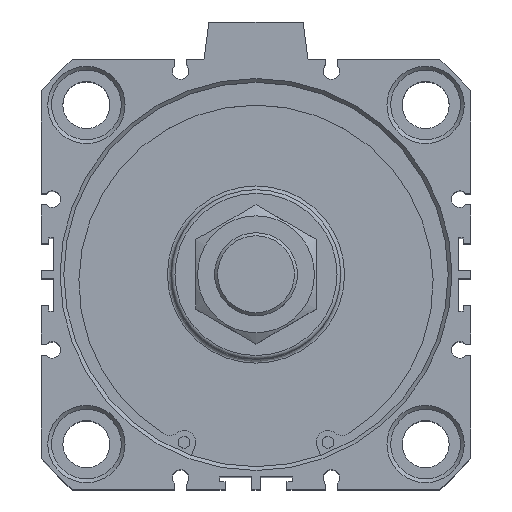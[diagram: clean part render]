
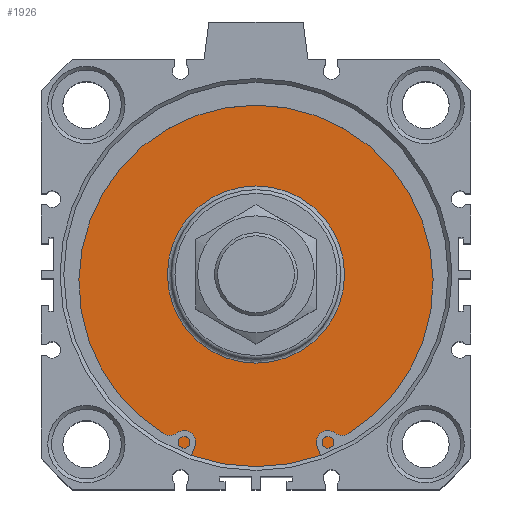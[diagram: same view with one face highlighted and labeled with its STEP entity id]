
A CAD part, top view. The second image highlights one B-rep face of the part: STEP entity #1926.
In plain terms, the highlighted planar face has unit normal (0, 0, 1).
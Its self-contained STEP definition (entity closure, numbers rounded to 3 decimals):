
#1875=CARTESIAN_POINT('',(-3.11,25.175,97.6));
#1876=VERTEX_POINT('',#1875);
#1877=CARTESIAN_POINT('',(-3.11,1.675,97.6));
#1878=DIRECTION('',(0.0,0.0,1.0));
#1879=DIRECTION('',(0.0,-1.0,0.0));
#1880=AXIS2_PLACEMENT_3D('',#1877,#1878,#1879);
#1881=CIRCLE('',#1880,23.5);
#1882=EDGE_CURVE('',#1876,#1876,#1881,.T.);
#1907=CARTESIAN_POINT('',(-3.11,38.425,97.6));
#1908=DIRECTION('',(0.0,0.0,1.0));
#1909=DIRECTION('',(1.0,0.0,0.0));
#1910=AXIS2_PLACEMENT_3D('',#1907,#1908,#1909);
#1911=PLANE('',#1910);
#1912=CARTESIAN_POINT('',(-3.11,52.675,97.6));
#1913=VERTEX_POINT('',#1912);
#1914=CARTESIAN_POINT('',(-3.11,1.675,97.6));
#1915=DIRECTION('',(0.0,0.0,-1.0));
#1916=DIRECTION('',(0.0,1.0,0.0));
#1917=AXIS2_PLACEMENT_3D('',#1914,#1915,#1916);
#1918=CIRCLE('',#1917,51.0);
#1919=EDGE_CURVE('',#1913,#1913,#1918,.T.);
#1920=ORIENTED_EDGE('',*,*,#1919,.F.);
#1921=EDGE_LOOP('',(#1920));
#1922=FACE_OUTER_BOUND('',#1921,.T.);
#1923=ORIENTED_EDGE('',*,*,#1882,.F.);
#1924=EDGE_LOOP('',(#1923));
#1925=FACE_BOUND('',#1924,.T.);
#1926=ADVANCED_FACE('',(#1922,#1925),#1911,.T.);
